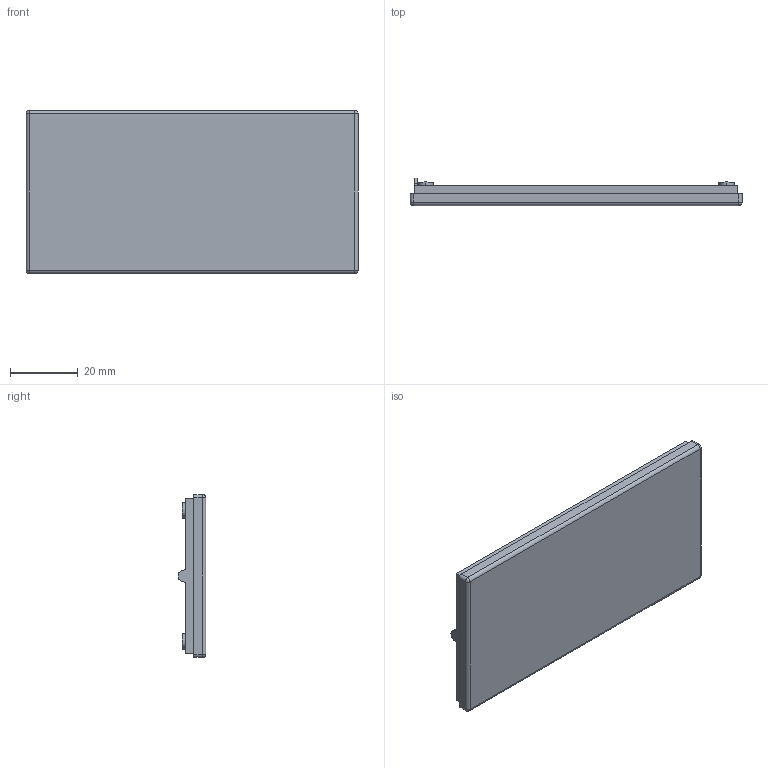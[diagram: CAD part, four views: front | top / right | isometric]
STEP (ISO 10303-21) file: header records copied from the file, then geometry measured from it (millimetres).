
FILE_DESCRIPTION (( 'STEP AP214' ), '1' );
FILE_NAME ('Tapa PP41.STEP', '2016-10-07T10:32:07', ( 'aaa' ), ( '' ), 'SwSTEP 2.0', 'SolidWorks 2013', '' );
FILE_SCHEMA (( 'AUTOMOTIVE_DESIGN' ));
Length unit declared in the file: millimetre
Products named in the file (1): Tapa PP41
Bounding box: 98.2 x 8.2 x 48.2 mm (x, y, z)
Volume: 10841 mm3; surface area: 12624.2 mm2
Topology: 1 solids, 1 shells, 55 faces, 124 edges, 76 vertices
Faces by surface type: plane 26, cylinder 25, sphere 4
Entity records: 1542 total; most frequent: DIRECTION 282, CARTESIAN_POINT 252, ORIENTED_EDGE 240, EDGE_CURVE 120, AXIS2_PLACEMENT_3D 106, VERTEX_POINT 76, VECTOR 70, LINE 70
